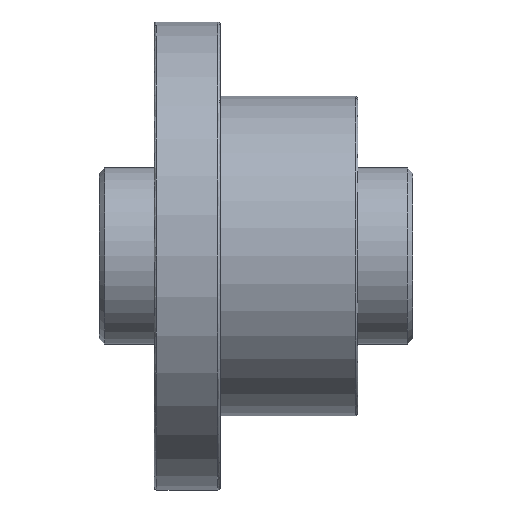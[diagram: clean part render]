
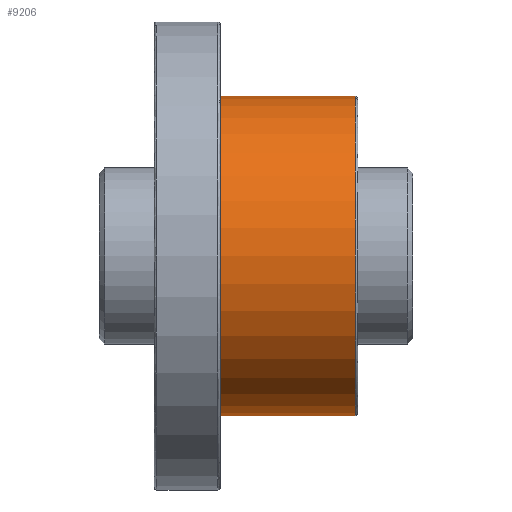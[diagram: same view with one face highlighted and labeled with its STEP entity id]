
A CAD part, front view. The second image highlights one B-rep face of the part: STEP entity #9206.
In plain terms, the highlighted cylindrical face has radius 29 mm (diameter 58 mm), a partial arc.
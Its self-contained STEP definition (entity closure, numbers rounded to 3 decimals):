
#597 = EDGE_CURVE ( 'NONE', #9110, #3967, #9516, .T. ) ;
#598 = VERTEX_POINT ( 'NONE', #4747 ) ;
#1010 = CARTESIAN_POINT ( 'NONE',  ( 37., 0., 0. ) ) ;
#1729 = AXIS2_PLACEMENT_3D ( 'NONE', #1010, #3483, #1831 ) ;
#1777 = VERTEX_POINT ( 'NONE', #7917 ) ;
#1831 = DIRECTION ( 'NONE',  ( 0., 0., 1. ) ) ;
#2097 = ORIENTED_EDGE ( 'NONE', *, *, #597, .F. ) ;
#2225 = DIRECTION ( 'NONE',  ( 0., 0., 1. ) ) ;
#2738 = CARTESIAN_POINT ( 'NONE',  ( 37., 0., -29. ) ) ;
#2946 = CARTESIAN_POINT ( 'NONE',  ( 12., 0., 0. ) ) ;
#3005 = CARTESIAN_POINT ( 'NONE',  ( 37., 0., 29. ) ) ;
#3077 = ORIENTED_EDGE ( 'NONE', *, *, #7406, .F. ) ;
#3272 = DIRECTION ( 'NONE',  ( 0., 0., 1. ) ) ;
#3483 = DIRECTION ( 'NONE',  ( -1., 0., 0. ) ) ;
#3759 = AXIS2_PLACEMENT_3D ( 'NONE', #8059, #10534, #3272 ) ;
#3807 = DIRECTION ( 'NONE',  ( -1., 0., 0. ) ) ;
#3967 = VERTEX_POINT ( 'NONE', #4615 ) ;
#4292 = VECTOR ( 'NONE', #5509, 1000. ) ;
#4510 = FACE_OUTER_BOUND ( 'NONE', #5357, .T. ) ;
#4615 = CARTESIAN_POINT ( 'NONE',  ( 12., 0., 29. ) ) ;
#4747 = CARTESIAN_POINT ( 'NONE',  ( 36.5, 0., -29. ) ) ;
#5072 = VECTOR ( 'NONE', #9135, 1000. ) ;
#5357 = EDGE_LOOP ( 'NONE', ( #3077, #7514, #8455, #2097 ) ) ;
#5509 = DIRECTION ( 'NONE',  ( -1., 0., 0. ) ) ;
#5936 = CIRCLE ( 'NONE', #3759, 29. ) ;
#7037 = AXIS2_PLACEMENT_3D ( 'NONE', #2946, #3807, #2225 ) ;
#7090 = EDGE_CURVE ( 'NONE', #1777, #3967, #8338, .T. ) ;
#7199 = LINE ( 'NONE', #2738, #5072 ) ;
#7406 = EDGE_CURVE ( 'NONE', #598, #9110, #7199, .T. ) ;
#7514 = ORIENTED_EDGE ( 'NONE', *, *, #7559, .T. ) ;
#7559 = EDGE_CURVE ( 'NONE', #598, #1777, #5936, .T. ) ;
#7917 = CARTESIAN_POINT ( 'NONE',  ( 36.5, 0., 29. ) ) ;
#8045 = CYLINDRICAL_SURFACE ( 'NONE', #1729, 29. ) ;
#8059 = CARTESIAN_POINT ( 'NONE',  ( 36.5, 0., 0. ) ) ;
#8338 = LINE ( 'NONE', #3005, #4292 ) ;
#8455 = ORIENTED_EDGE ( 'NONE', *, *, #7090, .T. ) ;
#8972 = CARTESIAN_POINT ( 'NONE',  ( 12., 0., -29. ) ) ;
#9110 = VERTEX_POINT ( 'NONE', #8972 ) ;
#9135 = DIRECTION ( 'NONE',  ( -1., 0., 0. ) ) ;
#9206 = ADVANCED_FACE ( 'NONE', ( #4510 ), #8045, .T. ) ;
#9516 = CIRCLE ( 'NONE', #7037, 29. ) ;
#10534 = DIRECTION ( 'NONE',  ( -1., 0., 0. ) ) ;
